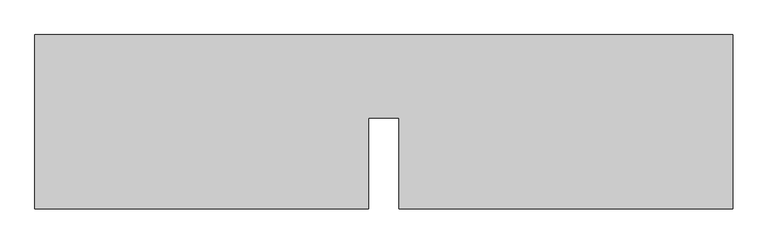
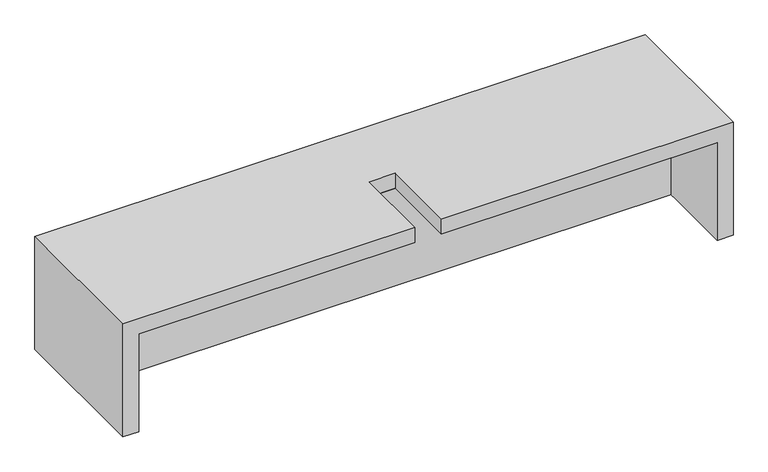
"""IFC4 building model written with IfcOpenShell, lengths in millimetres: furniture geometry, C07 Mesa circulación doble : C07 Mesa circulación doble."""

from ifc_helpers import new_model, si_unit, origin, origin_with_axes, place, context, project, spatial, polyline, outline, extrude, faceted_brep, source, transform, mapped, element, save


def furniture_4f233490(model_context):
    return source(origin(), model_context, "Body", "SolidModel", [
        faceted_brep([(2300.0, -575.0, 0.0), (2300.0, -575.0, 900.0), (100.0, -575.0, 900.0), (100.0, -575.0, 780.0), (2180.0, -575.0, 780.0), (2180.0, -575.0, 0.0), (-2300.0, -575.0, 900.0), (-2300.0, -575.0, 0.0), (-2180.0, -575.0, 0.0), (-2180.0, -575.0, 780.0), (-100.0, -575.0, 780.0), (-100.0, -575.0, 900.0), (-2300.0, 575.0, 900.0), (-2300.0, 575.0, 0.0), (-2180.0, 575.0, 0.0), (-2180.0, 575.0, 780.0), (100.0, 25.0, 780.0), (-100.0, 25.0, 780.0), (2180.0, 575.0, 780.0), (2180.0, 575.0, 0.0), (2300.0, 575.0, 0.0), (2300.0, 575.0, 900.0), (-100.0, 25.0, 900.0), (100.0, 25.0, 900.0)], [[[0, 1, 2, 3, 4, 5]], [[6, 7, 8, 9, 10, 11]], [[6, 12, 13, 7]], [[13, 14, 8, 7]], [[14, 15, 9, 8]], [[3, 16, 17, 10, 9, 15, 18, 4]], [[18, 19, 5, 4]], [[19, 20, 0, 5]], [[20, 21, 1, 0]], [[11, 22, 23, 2, 1, 21, 12, 6]], [[10, 17, 22, 11]], [[2, 23, 16, 3]], [[12, 21, 20, 19, 18, 15, 14, 13]], [[22, 17, 16, 23]]]),
        extrude(outline(polyline([(2180.0, 25.0), (-2180.0, 25.0), (-2180.0, 145.0), (2180.0, 145.0), (2180.0, 25.0)])), origin_with_axes(), (0.0, 0.0, 1.0), 780.0),
    ])


if __name__ == "__main__":
    model = new_model("IFC4")
    model_context = context("Model", 3, world=origin())
    ifc_project = project(units=[si_unit("LENGTHUNIT", "METRE", prefix="MILLI")], contexts=[model_context])
    site = spatial("IfcSite", under=ifc_project)
    building = spatial("IfcBuilding", under=site)
    placement = place(None, origin())
    furniture_shape = furniture_4f233490(model_context)
    element("IfcFurniture", 1, ObjectType="C07 Mesa circulación doble : C07 Mesa circulación doble", at=placement, inside=building, context=model_context, shape_type="MappedRepresentation", body=[
        mapped(furniture_shape, transform((0.0, 0.0, 0.0), x_axis=(1.0, 0.0, 0.0), y_axis=(0.0, 1.0, 0.0), z_axis=(0.0, 0.0, 1.0))),
    ])
    save(model, "model.ifc")
